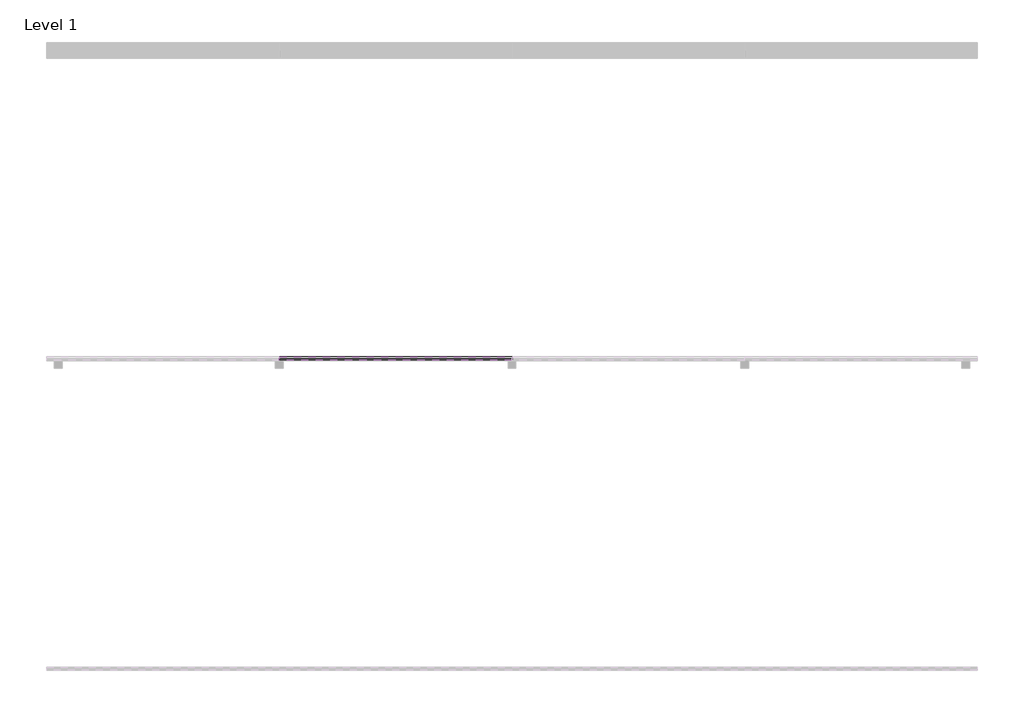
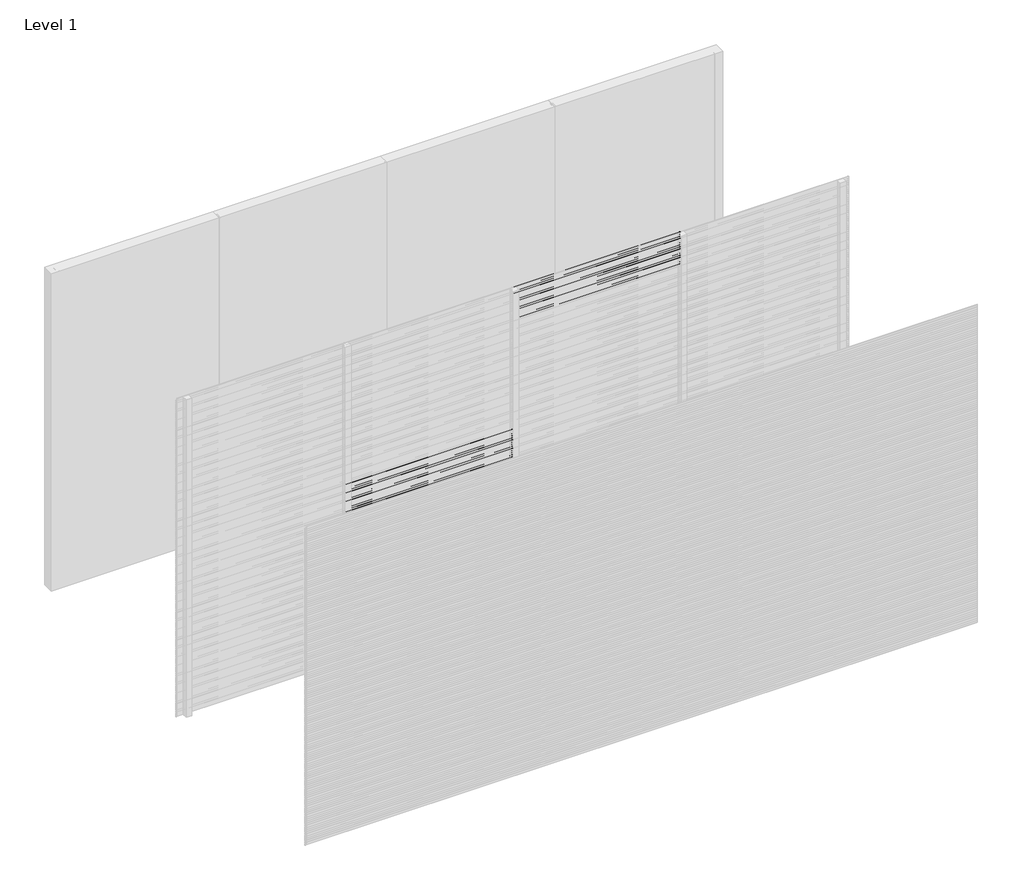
# One storey, part 13 of 31: 99 proxies.
"""IFC4 building model written with IfcOpenShell, lengths in millimetres."""

from ifc_helpers import new_model, si_unit, frame, origin, place, context, project, spatial, polyline, outline, extrude, element, save

model = new_model("IFC4")

# Units and contexts
model_context = context("Model", 3, world=origin())
ifc_project = project(units=[si_unit("LENGTHUNIT", "METRE", prefix="MILLI")], contexts=[model_context])

# Site, building, storey
site = spatial("IfcSite", under=ifc_project)
building = spatial("IfcBuilding", under=site)
storey = spatial("IfcBuildingStorey", under=building, Name="Level 1", Elevation=0.0)

# Proxies
placement = place(None, origin())
element("IfcBuildingElementProxy", 1, Name="Wall Sweeps", at=placement, inside=storey, context=model_context, shape_type="SweptSolid", body=[
    extrude(outline(polyline([(-11995.0, 1680.0), (-11995.0, 1668.942893), (-11976.0, 1653.0), (-11976.0, 1640.0), (-11997.0, 1657.6210923), (-11997.0, 1680.0), (-11995.0, 1680.0)])), frame((1500.0, 0.0, 0.0), z_axis=(1.0, 0.0, 0.0), x_axis=(0.0, 1.0, 0.0)), (0.0, 0.0, 1.0), 1500.0),
])
element("IfcBuildingElementProxy", 2, Name="Wall Sweeps", at=placement, inside=storey, context=model_context, shape_type="SweptSolid", body=[
    extrude(outline(polyline([(-11995.0, 1660.0), (-11995.0, 1648.942893), (-11976.0, 1633.0), (-11976.0, 1620.0), (-11997.0, 1637.6210923), (-11997.0, 1660.0), (-11995.0, 1660.0)])), frame((1500.0, 0.0, 0.0), z_axis=(1.0, 0.0, 0.0), x_axis=(0.0, 1.0, 0.0)), (0.0, 0.0, 1.0), 1500.0),
])
element("IfcBuildingElementProxy", 3, Name="Wall Sweeps", at=placement, inside=storey, context=model_context, shape_type="SweptSolid", body=[
    extrude(outline(polyline([(-11995.0, 1640.0), (-11995.0, 1628.942893), (-11976.0, 1613.0), (-11976.0, 1600.0), (-11997.0, 1617.6210923), (-11997.0, 1640.0), (-11995.0, 1640.0)])), frame((1500.0, 0.0, 0.0), z_axis=(1.0, 0.0, 0.0), x_axis=(0.0, 1.0, 0.0)), (0.0, 0.0, 1.0), 1500.0),
])
element("IfcBuildingElementProxy", 4, Name="Wall Sweeps", at=placement, inside=storey, context=model_context, shape_type="SweptSolid", body=[
    extrude(outline(polyline([(-11995.0, 1620.0), (-11995.0, 1608.942893), (-11976.0, 1593.0), (-11976.0, 1580.0), (-11997.0, 1597.6210923), (-11997.0, 1620.0), (-11995.0, 1620.0)])), frame((1500.0, 0.0, 0.0), z_axis=(1.0, 0.0, 0.0), x_axis=(0.0, 1.0, 0.0)), (0.0, 0.0, 1.0), 1500.0),
])
element("IfcBuildingElementProxy", 5, Name="Wall Sweeps", at=placement, inside=storey, context=model_context, shape_type="SweptSolid", body=[
    extrude(outline(polyline([(-11995.0, 1600.0), (-11995.0, 1588.942893), (-11976.0, 1573.0), (-11976.0, 1560.0), (-11997.0, 1577.6210923), (-11997.0, 1600.0), (-11995.0, 1600.0)])), frame((1500.0, 0.0, 0.0), z_axis=(1.0, 0.0, 0.0), x_axis=(0.0, 1.0, 0.0)), (0.0, 0.0, 1.0), 1500.0),
])
element("IfcBuildingElementProxy", 6, Name="Wall Sweeps", at=placement, inside=storey, context=model_context, shape_type="SweptSolid", body=[
    extrude(outline(polyline([(-11995.0, 1580.0), (-11995.0, 1568.942893), (-11976.0, 1553.0), (-11976.0, 1540.0), (-11997.0, 1557.6210923), (-11997.0, 1580.0), (-11995.0, 1580.0)])), frame((1500.0, 0.0, 0.0), z_axis=(1.0, 0.0, 0.0), x_axis=(0.0, 1.0, 0.0)), (0.0, 0.0, 1.0), 1500.0),
])
element("IfcBuildingElementProxy", 7, Name="Wall Sweeps", at=placement, inside=storey, context=model_context, shape_type="SweptSolid", body=[
    extrude(outline(polyline([(-11995.0, 1560.0), (-11995.0, 1548.942893), (-11976.0, 1533.0), (-11976.0, 1520.0), (-11997.0, 1537.6210923), (-11997.0, 1560.0), (-11995.0, 1560.0)])), frame((1500.0, 0.0, 0.0), z_axis=(1.0, 0.0, 0.0), x_axis=(0.0, 1.0, 0.0)), (0.0, 0.0, 1.0), 1500.0),
])
element("IfcBuildingElementProxy", 8, Name="Wall Sweeps", at=placement, inside=storey, context=model_context, shape_type="SweptSolid", body=[
    extrude(outline(polyline([(-11995.0, 1540.0), (-11995.0, 1528.942893), (-11976.0, 1513.0), (-11976.0, 1500.0), (-11997.0, 1517.6210923), (-11997.0, 1540.0), (-11995.0, 1540.0)])), frame((1500.0, 0.0, 0.0), z_axis=(1.0, 0.0, 0.0), x_axis=(0.0, 1.0, 0.0)), (0.0, 0.0, 1.0), 1500.0),
])
element("IfcBuildingElementProxy", 9, Name="Wall Sweeps", at=placement, inside=storey, context=model_context, shape_type="SweptSolid", body=[
    extrude(outline(polyline([(-11995.0, 1520.0), (-11995.0, 1508.942893), (-11976.0, 1493.0), (-11976.0, 1480.0), (-11997.0, 1497.6210923), (-11997.0, 1520.0), (-11995.0, 1520.0)])), frame((1500.0, 0.0, 0.0), z_axis=(1.0, 0.0, 0.0), x_axis=(0.0, 1.0, 0.0)), (0.0, 0.0, 1.0), 1500.0),
])
element("IfcBuildingElementProxy", 10, Name="Wall Sweeps", at=placement, inside=storey, context=model_context, shape_type="SweptSolid", body=[
    extrude(outline(polyline([(-11995.0, 1500.0), (-11995.0, 1488.942893), (-11976.0, 1473.0), (-11976.0, 1460.0), (-11997.0, 1477.6210923), (-11997.0, 1500.0), (-11995.0, 1500.0)])), frame((1500.0, 0.0, 0.0), z_axis=(1.0, 0.0, 0.0), x_axis=(0.0, 1.0, 0.0)), (0.0, 0.0, 1.0), 1500.0),
])
element("IfcBuildingElementProxy", 11, Name="Wall Sweeps", at=placement, inside=storey, context=model_context, shape_type="SweptSolid", body=[
    extrude(outline(polyline([(-11995.0, 1480.0), (-11995.0, 1468.942893), (-11976.0, 1453.0), (-11976.0, 1440.0), (-11997.0, 1457.6210923), (-11997.0, 1480.0), (-11995.0, 1480.0)])), frame((1500.0, 0.0, 0.0), z_axis=(1.0, 0.0, 0.0), x_axis=(0.0, 1.0, 0.0)), (0.0, 0.0, 1.0), 1500.0),
])
element("IfcBuildingElementProxy", 12, Name="Wall Sweeps", at=placement, inside=storey, context=model_context, shape_type="SweptSolid", body=[
    extrude(outline(polyline([(-11995.0, 1460.0), (-11995.0, 1448.942893), (-11976.0, 1433.0), (-11976.0, 1420.0), (-11997.0, 1437.6210923), (-11997.0, 1460.0), (-11995.0, 1460.0)])), frame((1500.0, 0.0, 0.0), z_axis=(1.0, 0.0, 0.0), x_axis=(0.0, 1.0, 0.0)), (0.0, 0.0, 1.0), 1500.0),
])
element("IfcBuildingElementProxy", 13, Name="Wall Sweeps", at=placement, inside=storey, context=model_context, shape_type="SweptSolid", body=[
    extrude(outline(polyline([(-11995.0, 1440.0), (-11995.0, 1428.942893), (-11976.0, 1413.0), (-11976.0, 1400.0), (-11997.0, 1417.6210923), (-11997.0, 1440.0), (-11995.0, 1440.0)])), frame((1500.0, 0.0, 0.0), z_axis=(1.0, 0.0, 0.0), x_axis=(0.0, 1.0, 0.0)), (0.0, 0.0, 1.0), 1500.0),
])
element("IfcBuildingElementProxy", 14, Name="Wall Sweeps", at=placement, inside=storey, context=model_context, shape_type="SweptSolid", body=[
    extrude(outline(polyline([(-11995.0, 1420.0), (-11995.0, 1408.942893), (-11976.0, 1393.0), (-11976.0, 1380.0), (-11997.0, 1397.6210923), (-11997.0, 1420.0), (-11995.0, 1420.0)])), frame((1500.0, 0.0, 0.0), z_axis=(1.0, 0.0, 0.0), x_axis=(0.0, 1.0, 0.0)), (0.0, 0.0, 1.0), 1500.0),
])
element("IfcBuildingElementProxy", 15, Name="Wall Sweeps", at=placement, inside=storey, context=model_context, shape_type="SweptSolid", body=[
    extrude(outline(polyline([(-11995.0, 1400.0), (-11995.0, 1388.942893), (-11976.0, 1373.0), (-11976.0, 1360.0), (-11997.0, 1377.6210923), (-11997.0, 1400.0), (-11995.0, 1400.0)])), frame((1500.0, 0.0, 0.0), z_axis=(1.0, 0.0, 0.0), x_axis=(0.0, 1.0, 0.0)), (0.0, 0.0, 1.0), 1500.0),
])
element("IfcBuildingElementProxy", 16, Name="Wall Sweeps", at=placement, inside=storey, context=model_context, shape_type="SweptSolid", body=[
    extrude(outline(polyline([(-11995.0, 1380.0), (-11995.0, 1368.942893), (-11976.0, 1353.0), (-11976.0, 1340.0), (-11997.0, 1357.6210923), (-11997.0, 1380.0), (-11995.0, 1380.0)])), frame((1500.0, 0.0, 0.0), z_axis=(1.0, 0.0, 0.0), x_axis=(0.0, 1.0, 0.0)), (0.0, 0.0, 1.0), 1500.0),
])
element("IfcBuildingElementProxy", 17, Name="Wall Sweeps", at=placement, inside=storey, context=model_context, shape_type="SweptSolid", body=[
    extrude(outline(polyline([(-11995.0, 1360.0), (-11995.0, 1348.942893), (-11976.0, 1333.0), (-11976.0, 1320.0), (-11997.0, 1337.6210923), (-11997.0, 1360.0), (-11995.0, 1360.0)])), frame((1500.0, 0.0, 0.0), z_axis=(1.0, 0.0, 0.0), x_axis=(0.0, 1.0, 0.0)), (0.0, 0.0, 1.0), 1500.0),
])
element("IfcBuildingElementProxy", 18, Name="Wall Sweeps", at=placement, inside=storey, context=model_context, shape_type="SweptSolid", body=[
    extrude(outline(polyline([(-11995.0, 1340.0), (-11995.0, 1328.942893), (-11976.0, 1313.0), (-11976.0, 1300.0), (-11997.0, 1317.6210923), (-11997.0, 1340.0), (-11995.0, 1340.0)])), frame((1500.0, 0.0, 0.0), z_axis=(1.0, 0.0, 0.0), x_axis=(0.0, 1.0, 0.0)), (0.0, 0.0, 1.0), 1500.0),
])
element("IfcBuildingElementProxy", 19, Name="Wall Sweeps", at=placement, inside=storey, context=model_context, shape_type="SweptSolid", body=[
    extrude(outline(polyline([(-11995.0, 1320.0), (-11995.0, 1308.942893), (-11976.0, 1293.0), (-11976.0, 1280.0), (-11997.0, 1297.6210923), (-11997.0, 1320.0), (-11995.0, 1320.0)])), frame((1500.0, 0.0, 0.0), z_axis=(1.0, 0.0, 0.0), x_axis=(0.0, 1.0, 0.0)), (0.0, 0.0, 1.0), 1500.0),
])
element("IfcBuildingElementProxy", 20, Name="Wall Sweeps", at=placement, inside=storey, context=model_context, shape_type="SweptSolid", body=[
    extrude(outline(polyline([(-11995.0, 1300.0), (-11995.0, 1288.942893), (-11976.0, 1273.0), (-11976.0, 1260.0), (-11997.0, 1277.6210923), (-11997.0, 1300.0), (-11995.0, 1300.0)])), frame((1500.0, 0.0, 0.0), z_axis=(1.0, 0.0, 0.0), x_axis=(0.0, 1.0, 0.0)), (0.0, 0.0, 1.0), 1500.0),
])
element("IfcBuildingElementProxy", 21, Name="Wall Sweeps", at=placement, inside=storey, context=model_context, shape_type="SweptSolid", body=[
    extrude(outline(polyline([(-11995.0, 1280.0), (-11995.0, 1268.942893), (-11976.0, 1253.0), (-11976.0, 1240.0), (-11997.0, 1257.6210923), (-11997.0, 1280.0), (-11995.0, 1280.0)])), frame((1500.0, 0.0, 0.0), z_axis=(1.0, 0.0, 0.0), x_axis=(0.0, 1.0, 0.0)), (0.0, 0.0, 1.0), 1500.0),
])
element("IfcBuildingElementProxy", 22, Name="Wall Sweeps", at=placement, inside=storey, context=model_context, shape_type="SweptSolid", body=[
    extrude(outline(polyline([(-11995.0, 1260.0), (-11995.0, 1248.942893), (-11976.0, 1233.0), (-11976.0, 1220.0), (-11997.0, 1237.6210923), (-11997.0, 1260.0), (-11995.0, 1260.0)])), frame((1500.0, 0.0, 0.0), z_axis=(1.0, 0.0, 0.0), x_axis=(0.0, 1.0, 0.0)), (0.0, 0.0, 1.0), 1500.0),
])
element("IfcBuildingElementProxy", 23, Name="Wall Sweeps", at=placement, inside=storey, context=model_context, shape_type="SweptSolid", body=[
    extrude(outline(polyline([(-11995.0, 1240.0), (-11995.0, 1228.942893), (-11976.0, 1213.0), (-11976.0, 1200.0), (-11997.0, 1217.6210923), (-11997.0, 1240.0), (-11995.0, 1240.0)])), frame((1500.0, 0.0, 0.0), z_axis=(1.0, 0.0, 0.0), x_axis=(0.0, 1.0, 0.0)), (0.0, 0.0, 1.0), 1500.0),
])
element("IfcBuildingElementProxy", 24, Name="Wall Sweeps", at=placement, inside=storey, context=model_context, shape_type="SweptSolid", body=[
    extrude(outline(polyline([(-11995.0, 1220.0), (-11995.0, 1208.942893), (-11976.0, 1193.0), (-11976.0, 1180.0), (-11997.0, 1197.6210923), (-11997.0, 1220.0), (-11995.0, 1220.0)])), frame((1500.0, 0.0, 0.0), z_axis=(1.0, 0.0, 0.0), x_axis=(0.0, 1.0, 0.0)), (0.0, 0.0, 1.0), 1500.0),
])
element("IfcBuildingElementProxy", 25, Name="Wall Sweeps", at=placement, inside=storey, context=model_context, shape_type="SweptSolid", body=[
    extrude(outline(polyline([(-11995.0, 1200.0), (-11995.0, 1188.942893), (-11976.0, 1173.0), (-11976.0, 1160.0), (-11997.0, 1177.6210923), (-11997.0, 1200.0), (-11995.0, 1200.0)])), frame((1500.0, 0.0, 0.0), z_axis=(1.0, 0.0, 0.0), x_axis=(0.0, 1.0, 0.0)), (0.0, 0.0, 1.0), 1500.0),
])
element("IfcBuildingElementProxy", 26, Name="Wall Sweeps", at=placement, inside=storey, context=model_context, shape_type="SweptSolid", body=[
    extrude(outline(polyline([(-11995.0, 1180.0), (-11995.0, 1168.942893), (-11976.0, 1153.0), (-11976.0, 1140.0), (-11997.0, 1157.6210923), (-11997.0, 1180.0), (-11995.0, 1180.0)])), frame((1500.0, 0.0, 0.0), z_axis=(1.0, 0.0, 0.0), x_axis=(0.0, 1.0, 0.0)), (0.0, 0.0, 1.0), 1500.0),
])
element("IfcBuildingElementProxy", 27, Name="Wall Sweeps", at=placement, inside=storey, context=model_context, shape_type="SweptSolid", body=[
    extrude(outline(polyline([(-11995.0, 1160.0), (-11995.0, 1148.942893), (-11976.0, 1133.0), (-11976.0, 1120.0), (-11997.0, 1137.6210923), (-11997.0, 1160.0), (-11995.0, 1160.0)])), frame((1500.0, 0.0, 0.0), z_axis=(1.0, 0.0, 0.0), x_axis=(0.0, 1.0, 0.0)), (0.0, 0.0, 1.0), 1500.0),
])
element("IfcBuildingElementProxy", 28, Name="Wall Sweeps", at=placement, inside=storey, context=model_context, shape_type="SweptSolid", body=[
    extrude(outline(polyline([(-11995.0, 1140.0), (-11995.0, 1128.942893), (-11976.0, 1113.0), (-11976.0, 1100.0), (-11997.0, 1117.6210923), (-11997.0, 1140.0), (-11995.0, 1140.0)])), frame((1500.0, 0.0, 0.0), z_axis=(1.0, 0.0, 0.0), x_axis=(0.0, 1.0, 0.0)), (0.0, 0.0, 1.0), 1500.0),
])
element("IfcBuildingElementProxy", 29, Name="Wall Sweeps", at=placement, inside=storey, context=model_context, shape_type="SweptSolid", body=[
    extrude(outline(polyline([(-11995.0, 1120.0), (-11995.0, 1108.942893), (-11976.0, 1093.0), (-11976.0, 1080.0), (-11997.0, 1097.6210923), (-11997.0, 1120.0), (-11995.0, 1120.0)])), frame((1500.0, 0.0, 0.0), z_axis=(1.0, 0.0, 0.0), x_axis=(0.0, 1.0, 0.0)), (0.0, 0.0, 1.0), 1500.0),
])
element("IfcBuildingElementProxy", 30, Name="Wall Sweeps", at=placement, inside=storey, context=model_context, shape_type="SweptSolid", body=[
    extrude(outline(polyline([(-11995.0, 1100.0), (-11995.0, 1088.942893), (-11976.0, 1073.0), (-11976.0, 1060.0), (-11997.0, 1077.6210923), (-11997.0, 1100.0), (-11995.0, 1100.0)])), frame((1500.0, 0.0, 0.0), z_axis=(1.0, 0.0, 0.0), x_axis=(0.0, 1.0, 0.0)), (0.0, 0.0, 1.0), 1500.0),
])
element("IfcBuildingElementProxy", 31, Name="Wall Sweeps", at=placement, inside=storey, context=model_context, shape_type="SweptSolid", body=[
    extrude(outline(polyline([(-11995.0, 1080.0), (-11995.0, 1068.942893), (-11976.0, 1053.0), (-11976.0, 1040.0), (-11997.0, 1057.6210923), (-11997.0, 1080.0), (-11995.0, 1080.0)])), frame((1500.0, 0.0, 0.0), z_axis=(1.0, 0.0, 0.0), x_axis=(0.0, 1.0, 0.0)), (0.0, 0.0, 1.0), 1500.0),
])
element("IfcBuildingElementProxy", 32, Name="Wall Sweeps", at=placement, inside=storey, context=model_context, shape_type="SweptSolid", body=[
    extrude(outline(polyline([(-11995.0, 1060.0), (-11995.0, 1048.942893), (-11976.0, 1033.0), (-11976.0, 1020.0), (-11997.0, 1037.6210923), (-11997.0, 1060.0), (-11995.0, 1060.0)])), frame((1500.0, 0.0, 0.0), z_axis=(1.0, 0.0, 0.0), x_axis=(0.0, 1.0, 0.0)), (0.0, 0.0, 1.0), 1500.0),
])
element("IfcBuildingElementProxy", 33, Name="Wall Sweeps", at=placement, inside=storey, context=model_context, shape_type="SweptSolid", body=[
    extrude(outline(polyline([(-11995.0, 1040.0), (-11995.0, 1028.942893), (-11976.0, 1013.0), (-11976.0, 1000.0), (-11997.0, 1017.6210923), (-11997.0, 1040.0), (-11995.0, 1040.0)])), frame((1500.0, 0.0, 0.0), z_axis=(1.0, 0.0, 0.0), x_axis=(0.0, 1.0, 0.0)), (0.0, 0.0, 1.0), 1500.0),
])
element("IfcBuildingElementProxy", 34, Name="Wall Sweeps", at=placement, inside=storey, context=model_context, shape_type="SweptSolid", body=[
    extrude(outline(polyline([(-11995.0, 1020.0), (-11995.0, 1008.942893), (-11976.0, 993.0), (-11976.0, 980.0), (-11997.0, 997.6210923), (-11997.0, 1020.0), (-11995.0, 1020.0)])), frame((1500.0, 0.0, 0.0), z_axis=(1.0, 0.0, 0.0), x_axis=(0.0, 1.0, 0.0)), (0.0, 0.0, 1.0), 1500.0),
])
element("IfcBuildingElementProxy", 35, Name="Wall Sweeps", at=placement, inside=storey, context=model_context, shape_type="SweptSolid", body=[
    extrude(outline(polyline([(-11995.0, 1000.0), (-11995.0, 988.942893), (-11976.0, 973.0), (-11976.0, 960.0), (-11997.0, 977.6210923), (-11997.0, 1000.0), (-11995.0, 1000.0)])), frame((1500.0, 0.0, 0.0), z_axis=(1.0, 0.0, 0.0), x_axis=(0.0, 1.0, 0.0)), (0.0, 0.0, 1.0), 1500.0),
])
element("IfcBuildingElementProxy", 36, Name="Wall Sweeps", at=placement, inside=storey, context=model_context, shape_type="SweptSolid", body=[
    extrude(outline(polyline([(-11995.0, 980.0), (-11995.0, 968.942893), (-11976.0, 953.0), (-11976.0, 940.0), (-11997.0, 957.6210923), (-11997.0, 980.0), (-11995.0, 980.0)])), frame((1500.0, 0.0, 0.0), z_axis=(1.0, 0.0, 0.0), x_axis=(0.0, 1.0, 0.0)), (0.0, 0.0, 1.0), 1500.0),
])
element("IfcBuildingElementProxy", 37, Name="Wall Sweeps", at=placement, inside=storey, context=model_context, shape_type="SweptSolid", body=[
    extrude(outline(polyline([(-11995.0, 960.0), (-11995.0, 948.942893), (-11976.0, 933.0), (-11976.0, 920.0), (-11997.0, 937.6210923), (-11997.0, 960.0), (-11995.0, 960.0)])), frame((1500.0, 0.0, 0.0), z_axis=(1.0, 0.0, 0.0), x_axis=(0.0, 1.0, 0.0)), (0.0, 0.0, 1.0), 1500.0),
])
element("IfcBuildingElementProxy", 38, Name="Wall Sweeps", at=placement, inside=storey, context=model_context, shape_type="SweptSolid", body=[
    extrude(outline(polyline([(-11995.0, 940.0), (-11995.0, 928.942893), (-11976.0, 913.0), (-11976.0, 900.0), (-11997.0, 917.6210923), (-11997.0, 940.0), (-11995.0, 940.0)])), frame((1500.0, 0.0, 0.0), z_axis=(1.0, 0.0, 0.0), x_axis=(0.0, 1.0, 0.0)), (0.0, 0.0, 1.0), 1500.0),
])
element("IfcBuildingElementProxy", 39, Name="Wall Sweeps", at=placement, inside=storey, context=model_context, shape_type="SweptSolid", body=[
    extrude(outline(polyline([(-11995.0, 920.0), (-11995.0, 908.942893), (-11976.0, 893.0), (-11976.0, 880.0), (-11997.0, 897.6210923), (-11997.0, 920.0), (-11995.0, 920.0)])), frame((1500.0, 0.0, 0.0), z_axis=(1.0, 0.0, 0.0), x_axis=(0.0, 1.0, 0.0)), (0.0, 0.0, 1.0), 1500.0),
])
element("IfcBuildingElementProxy", 40, Name="Wall Sweeps", at=placement, inside=storey, context=model_context, shape_type="SweptSolid", body=[
    extrude(outline(polyline([(-11995.0, 900.0), (-11995.0, 888.942893), (-11976.0, 873.0), (-11976.0, 860.0), (-11997.0, 877.6210923), (-11997.0, 900.0), (-11995.0, 900.0)])), frame((1500.0, 0.0, 0.0), z_axis=(1.0, 0.0, 0.0), x_axis=(0.0, 1.0, 0.0)), (0.0, 0.0, 1.0), 1500.0),
])
element("IfcBuildingElementProxy", 41, Name="Wall Sweeps", at=placement, inside=storey, context=model_context, shape_type="SweptSolid", body=[
    extrude(outline(polyline([(-11995.0, 880.0), (-11995.0, 868.942893), (-11976.0, 853.0), (-11976.0, 840.0), (-11997.0, 857.6210923), (-11997.0, 880.0), (-11995.0, 880.0)])), frame((1500.0, 0.0, 0.0), z_axis=(1.0, 0.0, 0.0), x_axis=(0.0, 1.0, 0.0)), (0.0, 0.0, 1.0), 1500.0),
])
element("IfcBuildingElementProxy", 42, Name="Wall Sweeps", at=placement, inside=storey, context=model_context, shape_type="SweptSolid", body=[
    extrude(outline(polyline([(-11995.0, 860.0), (-11995.0, 848.942893), (-11976.0, 833.0), (-11976.0, 820.0), (-11997.0, 837.6210923), (-11997.0, 860.0), (-11995.0, 860.0)])), frame((1500.0, 0.0, 0.0), z_axis=(1.0, 0.0, 0.0), x_axis=(0.0, 1.0, 0.0)), (0.0, 0.0, 1.0), 1500.0),
])
element("IfcBuildingElementProxy", 43, Name="Wall Sweeps", at=placement, inside=storey, context=model_context, shape_type="SweptSolid", body=[
    extrude(outline(polyline([(-11995.0, 840.0), (-11995.0, 828.942893), (-11976.0, 813.0), (-11976.0, 800.0), (-11997.0, 817.6210923), (-11997.0, 840.0), (-11995.0, 840.0)])), frame((1500.0, 0.0, 0.0), z_axis=(1.0, 0.0, 0.0), x_axis=(0.0, 1.0, 0.0)), (0.0, 0.0, 1.0), 1500.0),
])
element("IfcBuildingElementProxy", 44, Name="Wall Sweeps", at=placement, inside=storey, context=model_context, shape_type="SweptSolid", body=[
    extrude(outline(polyline([(-11995.0, 820.0), (-11995.0, 808.942893), (-11976.0, 793.0), (-11976.0, 780.0), (-11997.0, 797.6210923), (-11997.0, 820.0), (-11995.0, 820.0)])), frame((1500.0, 0.0, 0.0), z_axis=(1.0, 0.0, 0.0), x_axis=(0.0, 1.0, 0.0)), (0.0, 0.0, 1.0), 1500.0),
])
element("IfcBuildingElementProxy", 45, Name="Wall Sweeps", at=placement, inside=storey, context=model_context, shape_type="SweptSolid", body=[
    extrude(outline(polyline([(-11995.0, 800.0), (-11995.0, 788.942893), (-11976.0, 773.0), (-11976.0, 760.0), (-11997.0, 777.6210923), (-11997.0, 800.0), (-11995.0, 800.0)])), frame((1500.0, 0.0, 0.0), z_axis=(1.0, 0.0, 0.0), x_axis=(0.0, 1.0, 0.0)), (0.0, 0.0, 1.0), 1500.0),
])
element("IfcBuildingElementProxy", 46, Name="Wall Sweeps", at=placement, inside=storey, context=model_context, shape_type="SweptSolid", body=[
    extrude(outline(polyline([(-11995.0, 780.0), (-11995.0, 768.942893), (-11976.0, 753.0), (-11976.0, 740.0), (-11997.0, 757.6210923), (-11997.0, 780.0), (-11995.0, 780.0)])), frame((1500.0, 0.0, 0.0), z_axis=(1.0, 0.0, 0.0), x_axis=(0.0, 1.0, 0.0)), (0.0, 0.0, 1.0), 1500.0),
])
element("IfcBuildingElementProxy", 47, Name="Wall Sweeps", at=placement, inside=storey, context=model_context, shape_type="SweptSolid", body=[
    extrude(outline(polyline([(-11995.0, 760.0), (-11995.0, 748.942893), (-11976.0, 733.0), (-11976.0, 720.0), (-11997.0, 737.6210923), (-11997.0, 760.0), (-11995.0, 760.0)])), frame((1500.0, 0.0, 0.0), z_axis=(1.0, 0.0, 0.0), x_axis=(0.0, 1.0, 0.0)), (0.0, 0.0, 1.0), 1500.0),
])
element("IfcBuildingElementProxy", 48, Name="Wall Sweeps", at=placement, inside=storey, context=model_context, shape_type="SweptSolid", body=[
    extrude(outline(polyline([(-11995.0, 740.0), (-11995.0, 728.942893), (-11976.0, 713.0), (-11976.0, 700.0), (-11997.0, 717.6210923), (-11997.0, 740.0), (-11995.0, 740.0)])), frame((1500.0, 0.0, 0.0), z_axis=(1.0, 0.0, 0.0), x_axis=(0.0, 1.0, 0.0)), (0.0, 0.0, 1.0), 1500.0),
])
element("IfcBuildingElementProxy", 49, Name="Wall Sweeps", at=placement, inside=storey, context=model_context, shape_type="SweptSolid", body=[
    extrude(outline(polyline([(-11995.0, 720.0), (-11995.0, 708.942893), (-11976.0, 693.0), (-11976.0, 680.0), (-11997.0, 697.6210923), (-11997.0, 720.0), (-11995.0, 720.0)])), frame((1500.0, 0.0, 0.0), z_axis=(1.0, 0.0, 0.0), x_axis=(0.0, 1.0, 0.0)), (0.0, 0.0, 1.0), 1500.0),
])
element("IfcBuildingElementProxy", 50, Name="Wall Sweeps", at=placement, inside=storey, context=model_context, shape_type="SweptSolid", body=[
    extrude(outline(polyline([(-11995.0, 700.0), (-11995.0, 688.942893), (-11976.0, 673.0), (-11976.0, 660.0), (-11997.0, 677.6210923), (-11997.0, 700.0), (-11995.0, 700.0)])), frame((1500.0, 0.0, 0.0), z_axis=(1.0, 0.0, 0.0), x_axis=(0.0, 1.0, 0.0)), (0.0, 0.0, 1.0), 1500.0),
])
element("IfcBuildingElementProxy", 51, Name="Wall Sweeps", at=placement, inside=storey, context=model_context, shape_type="SweptSolid", body=[
    extrude(outline(polyline([(-11995.0, 680.0), (-11995.0, 668.942893), (-11976.0, 653.0), (-11976.0, 640.0), (-11997.0, 657.6210923), (-11997.0, 680.0), (-11995.0, 680.0)])), frame((1500.0, 0.0, 0.0), z_axis=(1.0, 0.0, 0.0), x_axis=(0.0, 1.0, 0.0)), (0.0, 0.0, 1.0), 1500.0),
])
element("IfcBuildingElementProxy", 52, Name="Wall Sweeps", at=placement, inside=storey, context=model_context, shape_type="SweptSolid", body=[
    extrude(outline(polyline([(-11995.0, 660.0), (-11995.0, 648.942893), (-11976.0, 633.0), (-11976.0, 620.0), (-11997.0, 637.6210923), (-11997.0, 660.0), (-11995.0, 660.0)])), frame((1500.0, 0.0, 0.0), z_axis=(1.0, 0.0, 0.0), x_axis=(0.0, 1.0, 0.0)), (0.0, 0.0, 1.0), 1500.0),
])
element("IfcBuildingElementProxy", 53, Name="Wall Sweeps", at=placement, inside=storey, context=model_context, shape_type="SweptSolid", body=[
    extrude(outline(polyline([(-11995.0, 640.0), (-11995.0, 628.942893), (-11976.0, 613.0), (-11976.0, 600.0), (-11997.0, 617.6210923), (-11997.0, 640.0), (-11995.0, 640.0)])), frame((1500.0, 0.0, 0.0), z_axis=(1.0, 0.0, 0.0), x_axis=(0.0, 1.0, 0.0)), (0.0, 0.0, 1.0), 1500.0),
])
element("IfcBuildingElementProxy", 54, Name="Wall Sweeps", at=placement, inside=storey, context=model_context, shape_type="SweptSolid", body=[
    extrude(outline(polyline([(-11995.0, 620.0), (-11995.0, 608.942893), (-11976.0, 593.0), (-11976.0, 580.0), (-11997.0, 597.6210923), (-11997.0, 620.0), (-11995.0, 620.0)])), frame((1500.0, 0.0, 0.0), z_axis=(1.0, 0.0, 0.0), x_axis=(0.0, 1.0, 0.0)), (0.0, 0.0, 1.0), 1500.0),
])
element("IfcBuildingElementProxy", 55, Name="Wall Sweeps", at=placement, inside=storey, context=model_context, shape_type="SweptSolid", body=[
    extrude(outline(polyline([(-11995.0, 600.0), (-11995.0, 588.942893), (-11976.0, 573.0), (-11976.0, 560.0), (-11997.0, 577.6210923), (-11997.0, 600.0), (-11995.0, 600.0)])), frame((1500.0, 0.0, 0.0), z_axis=(1.0, 0.0, 0.0), x_axis=(0.0, 1.0, 0.0)), (0.0, 0.0, 1.0), 1500.0),
])
element("IfcBuildingElementProxy", 56, Name="Wall Sweeps", at=placement, inside=storey, context=model_context, shape_type="SweptSolid", body=[
    extrude(outline(polyline([(-11995.0, 580.0), (-11995.0, 568.942893), (-11976.0, 553.0), (-11976.0, 540.0), (-11997.0, 557.6210923), (-11997.0, 580.0), (-11995.0, 580.0)])), frame((1500.0, 0.0, 0.0), z_axis=(1.0, 0.0, 0.0), x_axis=(0.0, 1.0, 0.0)), (0.0, 0.0, 1.0), 1500.0),
])
element("IfcBuildingElementProxy", 57, Name="Wall Sweeps", at=placement, inside=storey, context=model_context, shape_type="SweptSolid", body=[
    extrude(outline(polyline([(-11995.0, 560.0), (-11995.0, 548.942893), (-11976.0, 533.0), (-11976.0, 520.0), (-11997.0, 537.6210923), (-11997.0, 560.0), (-11995.0, 560.0)])), frame((1500.0, 0.0, 0.0), z_axis=(1.0, 0.0, 0.0), x_axis=(0.0, 1.0, 0.0)), (0.0, 0.0, 1.0), 1500.0),
])
element("IfcBuildingElementProxy", 58, Name="Wall Sweeps", at=placement, inside=storey, context=model_context, shape_type="SweptSolid", body=[
    extrude(outline(polyline([(-11995.0, 540.0), (-11995.0, 528.942893), (-11976.0, 513.0), (-11976.0, 500.0), (-11997.0, 517.6210923), (-11997.0, 540.0), (-11995.0, 540.0)])), frame((1500.0, 0.0, 0.0), z_axis=(1.0, 0.0, 0.0), x_axis=(0.0, 1.0, 0.0)), (0.0, 0.0, 1.0), 1500.0),
])
element("IfcBuildingElementProxy", 59, Name="Wall Sweeps", at=placement, inside=storey, context=model_context, shape_type="SweptSolid", body=[
    extrude(outline(polyline([(-11995.0, 520.0), (-11995.0, 508.942893), (-11976.0, 493.0), (-11976.0, 480.0), (-11997.0, 497.6210923), (-11997.0, 520.0), (-11995.0, 520.0)])), frame((1500.0, 0.0, 0.0), z_axis=(1.0, 0.0, 0.0), x_axis=(0.0, 1.0, 0.0)), (0.0, 0.0, 1.0), 1500.0),
])
element("IfcBuildingElementProxy", 60, Name="Wall Sweeps", at=placement, inside=storey, context=model_context, shape_type="SweptSolid", body=[
    extrude(outline(polyline([(-11995.0, 500.0), (-11995.0, 488.942893), (-11976.0, 473.0), (-11976.0, 460.0), (-11997.0, 477.6210923), (-11997.0, 500.0), (-11995.0, 500.0)])), frame((1500.0, 0.0, 0.0), z_axis=(1.0, 0.0, 0.0), x_axis=(0.0, 1.0, 0.0)), (0.0, 0.0, 1.0), 1500.0),
])
element("IfcBuildingElementProxy", 61, Name="Wall Sweeps", at=placement, inside=storey, context=model_context, shape_type="SweptSolid", body=[
    extrude(outline(polyline([(-11995.0, 480.0), (-11995.0, 468.942893), (-11976.0, 453.0), (-11976.0, 440.0), (-11997.0, 457.6210923), (-11997.0, 480.0), (-11995.0, 480.0)])), frame((1500.0, 0.0, 0.0), z_axis=(1.0, 0.0, 0.0), x_axis=(0.0, 1.0, 0.0)), (0.0, 0.0, 1.0), 1500.0),
])
element("IfcBuildingElementProxy", 62, Name="Wall Sweeps", at=placement, inside=storey, context=model_context, shape_type="SweptSolid", body=[
    extrude(outline(polyline([(-11995.0, 460.0), (-11995.0, 448.942893), (-11976.0, 433.0), (-11976.0, 420.0), (-11997.0, 437.6210923), (-11997.0, 460.0), (-11995.0, 460.0)])), frame((1500.0, 0.0, 0.0), z_axis=(1.0, 0.0, 0.0), x_axis=(0.0, 1.0, 0.0)), (0.0, 0.0, 1.0), 1500.0),
])
element("IfcBuildingElementProxy", 63, Name="Wall Sweeps", at=placement, inside=storey, context=model_context, shape_type="SweptSolid", body=[
    extrude(outline(polyline([(-11995.0, 440.0), (-11995.0, 428.942893), (-11976.0, 413.0), (-11976.0, 400.0), (-11997.0, 417.6210923), (-11997.0, 440.0), (-11995.0, 440.0)])), frame((1500.0, 0.0, 0.0), z_axis=(1.0, 0.0, 0.0), x_axis=(0.0, 1.0, 0.0)), (0.0, 0.0, 1.0), 1500.0),
])
element("IfcBuildingElementProxy", 64, Name="Wall Sweeps", at=placement, inside=storey, context=model_context, shape_type="SweptSolid", body=[
    extrude(outline(polyline([(-11995.0, 420.0), (-11995.0, 408.942893), (-11976.0, 393.0), (-11976.0, 380.0), (-11997.0, 397.6210923), (-11997.0, 420.0), (-11995.0, 420.0)])), frame((1500.0, 0.0, 0.0), z_axis=(1.0, 0.0, 0.0), x_axis=(0.0, 1.0, 0.0)), (0.0, 0.0, 1.0), 1500.0),
])
element("IfcBuildingElementProxy", 65, Name="Wall Sweeps", at=placement, inside=storey, context=model_context, shape_type="SweptSolid", body=[
    extrude(outline(polyline([(-11995.0, 400.0), (-11995.0, 388.942893), (-11976.0, 373.0), (-11976.0, 360.0), (-11997.0, 377.6210923), (-11997.0, 400.0), (-11995.0, 400.0)])), frame((1500.0, 0.0, 0.0), z_axis=(1.0, 0.0, 0.0), x_axis=(0.0, 1.0, 0.0)), (0.0, 0.0, 1.0), 1500.0),
])
element("IfcBuildingElementProxy", 66, Name="Wall Sweeps", at=placement, inside=storey, context=model_context, shape_type="SweptSolid", body=[
    extrude(outline(polyline([(-11995.0, 380.0), (-11995.0, 368.942893), (-11976.0, 353.0), (-11976.0, 340.0), (-11997.0, 357.6210923), (-11997.0, 380.0), (-11995.0, 380.0)])), frame((1500.0, 0.0, 0.0), z_axis=(1.0, 0.0, 0.0), x_axis=(0.0, 1.0, 0.0)), (0.0, 0.0, 1.0), 1500.0),
])
element("IfcBuildingElementProxy", 67, Name="Wall Sweeps", at=placement, inside=storey, context=model_context, shape_type="SweptSolid", body=[
    extrude(outline(polyline([(-11995.0, 360.0), (-11995.0, 348.942893), (-11976.0, 333.0), (-11976.0, 320.0), (-11997.0, 337.6210923), (-11997.0, 360.0), (-11995.0, 360.0)])), frame((1500.0, 0.0, 0.0), z_axis=(1.0, 0.0, 0.0), x_axis=(0.0, 1.0, 0.0)), (0.0, 0.0, 1.0), 1500.0),
])
element("IfcBuildingElementProxy", 68, Name="Wall Sweeps", at=placement, inside=storey, context=model_context, shape_type="SweptSolid", body=[
    extrude(outline(polyline([(-11995.0, 340.0), (-11995.0, 328.942893), (-11976.0, 313.0), (-11976.0, 300.0), (-11997.0, 317.6210923), (-11997.0, 340.0), (-11995.0, 340.0)])), frame((1500.0, 0.0, 0.0), z_axis=(1.0, 0.0, 0.0), x_axis=(0.0, 1.0, 0.0)), (0.0, 0.0, 1.0), 1500.0),
])
element("IfcBuildingElementProxy", 69, Name="Wall Sweeps", at=placement, inside=storey, context=model_context, shape_type="SweptSolid", body=[
    extrude(outline(polyline([(-11995.0, 320.0), (-11995.0, 308.942893), (-11976.0, 293.0), (-11976.0, 280.0), (-11997.0, 297.6210923), (-11997.0, 320.0), (-11995.0, 320.0)])), frame((1500.0, 0.0, 0.0), z_axis=(1.0, 0.0, 0.0), x_axis=(0.0, 1.0, 0.0)), (0.0, 0.0, 1.0), 1500.0),
])
element("IfcBuildingElementProxy", 70, Name="Wall Sweeps", at=placement, inside=storey, context=model_context, shape_type="SweptSolid", body=[
    extrude(outline(polyline([(-11995.0, 300.0), (-11995.0, 288.942893), (-11976.0, 273.0), (-11976.0, 260.0), (-11997.0, 277.6210923), (-11997.0, 300.0), (-11995.0, 300.0)])), frame((1500.0, 0.0, 0.0), z_axis=(1.0, 0.0, 0.0), x_axis=(0.0, 1.0, 0.0)), (0.0, 0.0, 1.0), 1500.0),
])
element("IfcBuildingElementProxy", 71, Name="Wall Sweeps", at=placement, inside=storey, context=model_context, shape_type="SweptSolid", body=[
    extrude(outline(polyline([(-11995.0, 280.0), (-11995.0, 268.942893), (-11976.0, 253.0), (-11976.0, 240.0), (-11997.0, 257.6210923), (-11997.0, 280.0), (-11995.0, 280.0)])), frame((1500.0, 0.0, 0.0), z_axis=(1.0, 0.0, 0.0), x_axis=(0.0, 1.0, 0.0)), (0.0, 0.0, 1.0), 1500.0),
])
element("IfcBuildingElementProxy", 72, Name="Wall Sweeps", at=placement, inside=storey, context=model_context, shape_type="SweptSolid", body=[
    extrude(outline(polyline([(-11995.0, 260.0), (-11995.0, 248.942893), (-11976.0, 233.0), (-11976.0, 220.0), (-11997.0, 237.6210923), (-11997.0, 260.0), (-11995.0, 260.0)])), frame((1500.0, 0.0, 0.0), z_axis=(1.0, 0.0, 0.0), x_axis=(0.0, 1.0, 0.0)), (0.0, 0.0, 1.0), 1500.0),
])
element("IfcBuildingElementProxy", 73, Name="Wall Sweeps", at=placement, inside=storey, context=model_context, shape_type="SweptSolid", body=[
    extrude(outline(polyline([(-11995.0, 240.0), (-11995.0, 228.942893), (-11976.0, 213.0), (-11976.0, 200.0), (-11997.0, 217.6210923), (-11997.0, 240.0), (-11995.0, 240.0)])), frame((1500.0, 0.0, 0.0), z_axis=(1.0, 0.0, 0.0), x_axis=(0.0, 1.0, 0.0)), (0.0, 0.0, 1.0), 1500.0),
])
element("IfcBuildingElementProxy", 74, Name="Wall Sweeps", at=placement, inside=storey, context=model_context, shape_type="SweptSolid", body=[
    extrude(outline(polyline([(-11995.0, 220.0), (-11995.0, 208.942893), (-11976.0, 193.0), (-11976.0, 180.0), (-11997.0, 197.6210923), (-11997.0, 220.0), (-11995.0, 220.0)])), frame((1500.0, 0.0, 0.0), z_axis=(1.0, 0.0, 0.0), x_axis=(0.0, 1.0, 0.0)), (0.0, 0.0, 1.0), 1500.0),
])
element("IfcBuildingElementProxy", 75, Name="Wall Sweeps", at=placement, inside=storey, context=model_context, shape_type="SweptSolid", body=[
    extrude(outline(polyline([(-11995.0, 200.0), (-11995.0, 188.942893), (-11976.0, 173.0), (-11976.0, 160.0), (-11997.0, 177.6210923), (-11997.0, 200.0), (-11995.0, 200.0)])), frame((1500.0, 0.0, 0.0), z_axis=(1.0, 0.0, 0.0), x_axis=(0.0, 1.0, 0.0)), (0.0, 0.0, 1.0), 1500.0),
])
element("IfcBuildingElementProxy", 76, Name="Wall Sweeps", at=placement, inside=storey, context=model_context, shape_type="SweptSolid", body=[
    extrude(outline(polyline([(-11995.0, 180.0), (-11995.0, 168.942893), (-11976.0, 153.0), (-11976.0, 140.0), (-11997.0, 157.6210923), (-11997.0, 180.0), (-11995.0, 180.0)])), frame((1500.0, 0.0, 0.0), z_axis=(1.0, 0.0, 0.0), x_axis=(0.0, 1.0, 0.0)), (0.0, 0.0, 1.0), 1500.0),
])
element("IfcBuildingElementProxy", 77, Name="Wall Sweeps", at=placement, inside=storey, context=model_context, shape_type="SweptSolid", body=[
    extrude(outline(polyline([(-11995.0, 160.0), (-11995.0, 148.942893), (-11976.0, 133.0), (-11976.0, 120.0), (-11997.0, 137.6210923), (-11997.0, 160.0), (-11995.0, 160.0)])), frame((1500.0, 0.0, 0.0), z_axis=(1.0, 0.0, 0.0), x_axis=(0.0, 1.0, 0.0)), (0.0, 0.0, 1.0), 1500.0),
])
element("IfcBuildingElementProxy", 78, Name="Wall Sweeps", at=placement, inside=storey, context=model_context, shape_type="SweptSolid", body=[
    extrude(outline(polyline([(-11995.0, 140.0), (-11995.0, 128.942893), (-11976.0, 113.0), (-11976.0, 100.0), (-11997.0, 117.6210923), (-11997.0, 140.0), (-11995.0, 140.0)])), frame((1500.0, 0.0, 0.0), z_axis=(1.0, 0.0, 0.0), x_axis=(0.0, 1.0, 0.0)), (0.0, 0.0, 1.0), 1500.0),
])
element("IfcBuildingElementProxy", 79, Name="Wall Sweeps", at=placement, inside=storey, context=model_context, shape_type="SweptSolid", body=[
    extrude(outline(polyline([(-11995.0, 120.0), (-11995.0, 108.942893), (-11976.0, 93.0), (-11976.0, 80.0), (-11997.0, 97.6210923), (-11997.0, 120.0), (-11995.0, 120.0)])), frame((1500.0, 0.0, 0.0), z_axis=(1.0, 0.0, 0.0), x_axis=(0.0, 1.0, 0.0)), (0.0, 0.0, 1.0), 1500.0),
])
element("IfcBuildingElementProxy", 80, Name="Wall Sweeps", at=placement, inside=storey, context=model_context, shape_type="SweptSolid", body=[
    extrude(outline(polyline([(-11995.0, 100.0), (-11995.0, 88.942893), (-11976.0, 73.0), (-11976.0, 60.0), (-11997.0, 77.6210923), (-11997.0, 100.0), (-11995.0, 100.0)])), frame((1500.0, 0.0, 0.0), z_axis=(1.0, 0.0, 0.0), x_axis=(0.0, 1.0, 0.0)), (0.0, 0.0, 1.0), 1500.0),
])
element("IfcBuildingElementProxy", 81, Name="Wall Sweeps", at=placement, inside=storey, context=model_context, shape_type="SweptSolid", body=[
    extrude(outline(polyline([(-11995.0, 80.0), (-11995.0, 68.942893), (-11976.0, 53.0), (-11976.0, 40.0), (-11997.0, 57.6210923), (-11997.0, 80.0), (-11995.0, 80.0)])), frame((1500.0, 0.0, 0.0), z_axis=(1.0, 0.0, 0.0), x_axis=(0.0, 1.0, 0.0)), (0.0, 0.0, 1.0), 1500.0),
])
element("IfcBuildingElementProxy", 82, Name="Wall Sweeps", at=placement, inside=storey, context=model_context, shape_type="SweptSolid", body=[
    extrude(outline(polyline([(-11995.0, 60.0), (-11995.0, 48.942893), (-11976.0, 33.0), (-11976.0, 20.0), (-11997.0, 37.6210923), (-11997.0, 60.0), (-11995.0, 60.0)])), frame((1500.0, 0.0, 0.0), z_axis=(1.0, 0.0, 0.0), x_axis=(0.0, 1.0, 0.0)), (0.0, 0.0, 1.0), 1500.0),
])
element("IfcBuildingElementProxy", 83, Name="Wall Sweeps", at=placement, inside=storey, context=model_context, shape_type="SweptSolid", body=[
    extrude(outline(polyline([(-11995.0, 40.0), (-11995.0, 28.942893), (-11976.0, 13.0), (-11976.0, 0.0), (-11997.0, 17.6210923), (-11997.0, 40.0), (-11995.0, 40.0)])), frame((1500.0, 0.0, 0.0), z_axis=(1.0, 0.0, 0.0), x_axis=(0.0, 1.0, 0.0)), (0.0, 0.0, 1.0), 1500.0),
])
element("IfcBuildingElementProxy", 84, Name="Wall Sweeps", at=placement, inside=storey, context=model_context, shape_type="SweptSolid", body=[
    extrude(outline(polyline([(-11995.0, 20.0), (-11995.0, 8.942893), (-11976.0, -7.0), (-11976.0, -20.0), (-11997.0, -2.3789077), (-11997.0, 20.0), (-11995.0, 20.0)])), frame((1500.0, 0.0, 0.0), z_axis=(1.0, 0.0, 0.0), x_axis=(0.0, 1.0, 0.0)), (0.0, 0.0, 1.0), 1500.0),
])
element("IfcBuildingElementProxy", 85, Name="Wall Sweeps", at=placement, inside=storey, context=model_context, shape_type="SweptSolid", body=[
    extrude(outline(polyline([(-11995.0, 3000.0), (-11995.0, 2988.942893), (-11976.0, 2973.0), (-11976.0, 2960.0), (-11997.0, 2977.6210923), (-11997.0, 3000.0), (-11995.0, 3000.0)])), frame((3000.0, 0.0, 0.0), z_axis=(1.0, 0.0, 0.0), x_axis=(0.0, 1.0, 0.0)), (0.0, 0.0, 1.0), 1500.0),
])
element("IfcBuildingElementProxy", 86, Name="Wall Sweeps", at=placement, inside=storey, context=model_context, shape_type="SweptSolid", body=[
    extrude(outline(polyline([(-11995.0, 2980.0), (-11995.0, 2968.942893), (-11976.0, 2953.0), (-11976.0, 2940.0), (-11997.0, 2957.6210923), (-11997.0, 2980.0), (-11995.0, 2980.0)])), frame((3000.0, 0.0, 0.0), z_axis=(1.0, 0.0, 0.0), x_axis=(0.0, 1.0, 0.0)), (0.0, 0.0, 1.0), 1500.0),
])
element("IfcBuildingElementProxy", 87, Name="Wall Sweeps", at=placement, inside=storey, context=model_context, shape_type="SweptSolid", body=[
    extrude(outline(polyline([(-11995.0, 2960.0), (-11995.0, 2948.942893), (-11976.0, 2933.0), (-11976.0, 2920.0), (-11997.0, 2937.6210923), (-11997.0, 2960.0), (-11995.0, 2960.0)])), frame((3000.0, 0.0, 0.0), z_axis=(1.0, 0.0, 0.0), x_axis=(0.0, 1.0, 0.0)), (0.0, 0.0, 1.0), 1500.0),
])
element("IfcBuildingElementProxy", 88, Name="Wall Sweeps", at=placement, inside=storey, context=model_context, shape_type="SweptSolid", body=[
    extrude(outline(polyline([(-11995.0, 2940.0), (-11995.0, 2928.942893), (-11976.0, 2913.0), (-11976.0, 2900.0), (-11997.0, 2917.6210923), (-11997.0, 2940.0), (-11995.0, 2940.0)])), frame((3000.0, 0.0, 0.0), z_axis=(1.0, 0.0, 0.0), x_axis=(0.0, 1.0, 0.0)), (0.0, 0.0, 1.0), 1500.0),
])
element("IfcBuildingElementProxy", 89, Name="Wall Sweeps", at=placement, inside=storey, context=model_context, shape_type="SweptSolid", body=[
    extrude(outline(polyline([(-11995.0, 2920.0), (-11995.0, 2908.942893), (-11976.0, 2893.0), (-11976.0, 2880.0), (-11997.0, 2897.6210923), (-11997.0, 2920.0), (-11995.0, 2920.0)])), frame((3000.0, 0.0, 0.0), z_axis=(1.0, 0.0, 0.0), x_axis=(0.0, 1.0, 0.0)), (0.0, 0.0, 1.0), 1500.0),
])
element("IfcBuildingElementProxy", 90, Name="Wall Sweeps", at=placement, inside=storey, context=model_context, shape_type="SweptSolid", body=[
    extrude(outline(polyline([(-11995.0, 2900.0), (-11995.0, 2888.942893), (-11976.0, 2873.0), (-11976.0, 2860.0), (-11997.0, 2877.6210923), (-11997.0, 2900.0), (-11995.0, 2900.0)])), frame((3000.0, 0.0, 0.0), z_axis=(1.0, 0.0, 0.0), x_axis=(0.0, 1.0, 0.0)), (0.0, 0.0, 1.0), 1500.0),
])
element("IfcBuildingElementProxy", 91, Name="Wall Sweeps", at=placement, inside=storey, context=model_context, shape_type="SweptSolid", body=[
    extrude(outline(polyline([(-11995.0, 2880.0), (-11995.0, 2868.942893), (-11976.0, 2853.0), (-11976.0, 2840.0), (-11997.0, 2857.6210923), (-11997.0, 2880.0), (-11995.0, 2880.0)])), frame((3000.0, 0.0, 0.0), z_axis=(1.0, 0.0, 0.0), x_axis=(0.0, 1.0, 0.0)), (0.0, 0.0, 1.0), 1500.0),
])
element("IfcBuildingElementProxy", 92, Name="Wall Sweeps", at=placement, inside=storey, context=model_context, shape_type="SweptSolid", body=[
    extrude(outline(polyline([(-11995.0, 2860.0), (-11995.0, 2848.942893), (-11976.0, 2833.0), (-11976.0, 2820.0), (-11997.0, 2837.6210923), (-11997.0, 2860.0), (-11995.0, 2860.0)])), frame((3000.0, 0.0, 0.0), z_axis=(1.0, 0.0, 0.0), x_axis=(0.0, 1.0, 0.0)), (0.0, 0.0, 1.0), 1500.0),
])
element("IfcBuildingElementProxy", 93, Name="Wall Sweeps", at=placement, inside=storey, context=model_context, shape_type="SweptSolid", body=[
    extrude(outline(polyline([(-11995.0, 2840.0), (-11995.0, 2828.942893), (-11976.0, 2813.0), (-11976.0, 2800.0), (-11997.0, 2817.6210923), (-11997.0, 2840.0), (-11995.0, 2840.0)])), frame((3000.0, 0.0, 0.0), z_axis=(1.0, 0.0, 0.0), x_axis=(0.0, 1.0, 0.0)), (0.0, 0.0, 1.0), 1500.0),
])
element("IfcBuildingElementProxy", 94, Name="Wall Sweeps", at=placement, inside=storey, context=model_context, shape_type="SweptSolid", body=[
    extrude(outline(polyline([(-11995.0, 2820.0), (-11995.0, 2808.942893), (-11976.0, 2793.0), (-11976.0, 2780.0), (-11997.0, 2797.6210923), (-11997.0, 2820.0), (-11995.0, 2820.0)])), frame((3000.0, 0.0, 0.0), z_axis=(1.0, 0.0, 0.0), x_axis=(0.0, 1.0, 0.0)), (0.0, 0.0, 1.0), 1500.0),
])
element("IfcBuildingElementProxy", 95, Name="Wall Sweeps", at=placement, inside=storey, context=model_context, shape_type="SweptSolid", body=[
    extrude(outline(polyline([(-11995.0, 2800.0), (-11995.0, 2788.942893), (-11976.0, 2773.0), (-11976.0, 2760.0), (-11997.0, 2777.6210923), (-11997.0, 2800.0), (-11995.0, 2800.0)])), frame((3000.0, 0.0, 0.0), z_axis=(1.0, 0.0, 0.0), x_axis=(0.0, 1.0, 0.0)), (0.0, 0.0, 1.0), 1500.0),
])
element("IfcBuildingElementProxy", 96, Name="Wall Sweeps", at=placement, inside=storey, context=model_context, shape_type="SweptSolid", body=[
    extrude(outline(polyline([(-11995.0, 2780.0), (-11995.0, 2768.942893), (-11976.0, 2753.0), (-11976.0, 2740.0), (-11997.0, 2757.6210923), (-11997.0, 2780.0), (-11995.0, 2780.0)])), frame((3000.0, 0.0, 0.0), z_axis=(1.0, 0.0, 0.0), x_axis=(0.0, 1.0, 0.0)), (0.0, 0.0, 1.0), 1500.0),
])
element("IfcBuildingElementProxy", 97, Name="Wall Sweeps", at=placement, inside=storey, context=model_context, shape_type="SweptSolid", body=[
    extrude(outline(polyline([(-11995.0, 2760.0), (-11995.0, 2748.942893), (-11976.0, 2733.0), (-11976.0, 2720.0), (-11997.0, 2737.6210923), (-11997.0, 2760.0), (-11995.0, 2760.0)])), frame((3000.0, 0.0, 0.0), z_axis=(1.0, 0.0, 0.0), x_axis=(0.0, 1.0, 0.0)), (0.0, 0.0, 1.0), 1500.0),
])
element("IfcBuildingElementProxy", 98, Name="Wall Sweeps", at=placement, inside=storey, context=model_context, shape_type="SweptSolid", body=[
    extrude(outline(polyline([(-11995.0, 2740.0), (-11995.0, 2728.942893), (-11976.0, 2713.0), (-11976.0, 2700.0), (-11997.0, 2717.6210923), (-11997.0, 2740.0), (-11995.0, 2740.0)])), frame((3000.0, 0.0, 0.0), z_axis=(1.0, 0.0, 0.0), x_axis=(0.0, 1.0, 0.0)), (0.0, 0.0, 1.0), 1500.0),
])
element("IfcBuildingElementProxy", 99, Name="Wall Sweeps", at=placement, inside=storey, context=model_context, shape_type="SweptSolid", body=[
    extrude(outline(polyline([(-11995.0, 2720.0), (-11995.0, 2708.942893), (-11976.0, 2693.0), (-11976.0, 2680.0), (-11997.0, 2697.6210923), (-11997.0, 2720.0), (-11995.0, 2720.0)])), frame((3000.0, 0.0, 0.0), z_axis=(1.0, 0.0, 0.0), x_axis=(0.0, 1.0, 0.0)), (0.0, 0.0, 1.0), 1500.0),
])

save(model, "model.ifc")
